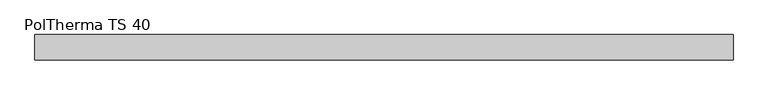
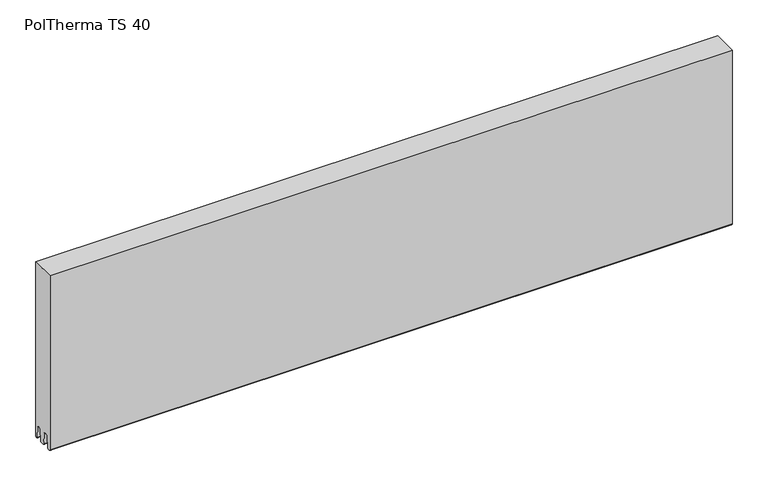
"""IFC4 building model written with IfcOpenShell, lengths in millimetres: plate geometry, Europanels_Poltherma TS_Hz : PolTherma TS 40."""

from ifc_helpers import new_model, si_unit, point, frame, frame_2d, origin, place, context, project, spatial, polyline, circle_curve, trimmed, segment, composite_curve, outline, extrude, source, transform, mapped, element, save


def poltherma_ts_40_39fe1b16(model_context):
    return source(origin(), model_context, "Body", "SweptSolid", [
        extrude(outline(composite_curve([segment(polyline([(-20.0, 300.0), (20.0, 300.0), (20.0, 3.8074585)]), True, "CONTINUOUS"), segment(trimmed(circle_curve(frame_2d((17.6334587, 3.8074585)), 2.3665413), [point((20.0, 3.8074585))], [point((15.2703732, 3.6796133))], False, "CARTESIAN"), True, "CONTINUOUS"), segment(polyline([(15.2703732, 3.6796133), (14.3268153, 21.1203008)]), True, "CONTINUOUS"), segment(trimmed(circle_curve(frame_2d((11.0497759, 20.9430098)), 3.2818316), [point((14.3268153, 21.1203008))], [point((7.7733842, 21.1318916))], True, "CARTESIAN"), True, "CONTINUOUS"), segment(polyline([(7.7733842, 21.1318916), (6.7366349, 3.1481762)]), True, "CONTINUOUS"), segment(trimmed(circle_curve(frame_2d((4.9895357, 3.2488953)), 1.75), [point((6.7366349, 3.1481762))], [point((4.9895357, 1.4988953))], False, "CARTESIAN"), True, "CONTINUOUS"), segment(polyline([(4.9895357, 1.4988953), (-0.5507777, 1.4988953)]), True, "CONTINUOUS"), segment(trimmed(circle_curve(frame_2d((-0.5507777, 3.2988953)), 1.8), [point((-0.5507777, 1.4988953))], [point((-2.3477941, 3.1952985))], False, "CARTESIAN"), True, "CONTINUOUS"), segment(polyline([(-2.3477941, 3.1952985), (-3.3842966, 21.1747334)]), True, "CONTINUOUS"), segment(trimmed(circle_curve(frame_2d((-6.3793238, 21.0020721)), 3.0), [point((-3.3842966, 21.1747334))], [point((-6.3793238, 24.0020721))], True, "CARTESIAN"), True, "CONTINUOUS"), segment(polyline([(-6.3793238, 24.0020721), (-9.3209015, 24.0020721)]), True, "CONTINUOUS"), segment(trimmed(circle_curve(frame_2d((-9.3209015, 21.0020721)), 3.0), [point((-9.3209015, 24.0020721))], [point((-12.3165207, 21.1641379))], True, "CARTESIAN"), True, "CONTINUOUS"), segment(polyline([(-12.3165207, 21.1641379), (-13.2780726, 3.3908514)]), True, "CONTINUOUS"), segment(trimmed(circle_curve(frame_2d((-15.2751521, 3.4988953)), 2.0), [point((-13.2780726, 3.3908514))], [point((-15.2751521, 1.4988953))], False, "CARTESIAN"), True, "CONTINUOUS"), segment(polyline([(-15.2751521, 1.4988953), (-18.0, 1.4988953)]), True, "CONTINUOUS"), segment(trimmed(circle_curve(frame_2d((-18.0, 3.4988953)), 2.0), [point((-18.0, 1.4988953))], [point((-20.0, 3.4988953))], False, "CARTESIAN"), True, "CONTINUOUS"), segment(polyline([(-20.0, 3.4988953), (-20.0, 300.0)]), True, "CONTINUOUS")], self_intersect=False)), frame((-550.0, 0.0, 0.0), z_axis=(1.0, 0.0, 0.0), x_axis=(0.0, 1.0, 0.0)), (0.0, 0.0, 1.0), 1100.0),
    ])


if __name__ == "__main__":
    model = new_model("IFC4")
    model_context = context("Model", 3, world=origin())
    ifc_project = project(units=[si_unit("LENGTHUNIT", "METRE", prefix="MILLI")], contexts=[model_context])
    site = spatial("IfcSite", under=ifc_project)
    building = spatial("IfcBuilding", under=site)
    placement = place(None, origin())
    poltherma_ts_40_shape = poltherma_ts_40_39fe1b16(model_context)
    element("IfcPlate", 1, ObjectType="Europanels_Poltherma TS_Hz : PolTherma TS 40", at=placement, inside=building, context=model_context, shape_type="MappedRepresentation", body=[
        mapped(poltherma_ts_40_shape, transform((0.0, 0.0, 0.0), x_axis=(1.0, 0.0, 0.0), y_axis=(0.0, 1.0, 0.0), z_axis=(0.0, 0.0, 1.0))),
    ])
    save(model, "model.ifc")
